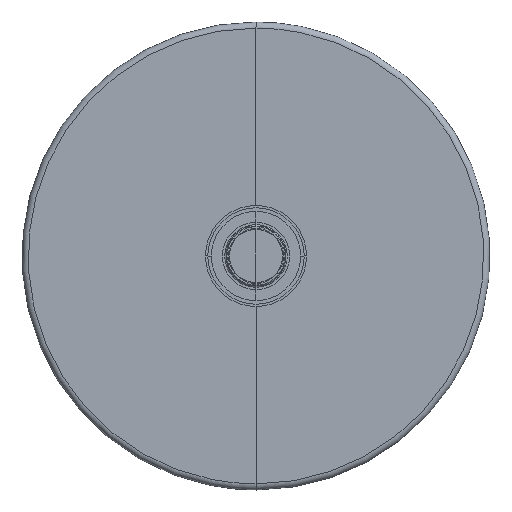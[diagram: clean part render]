
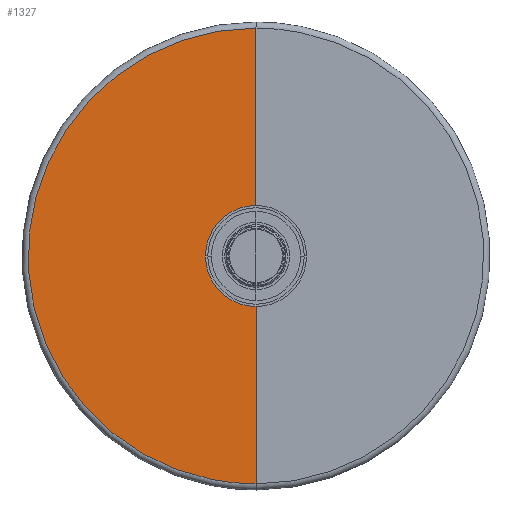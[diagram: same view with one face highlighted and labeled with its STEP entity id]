
A CAD part, top view. The second image highlights one B-rep face of the part: STEP entity #1327.
In plain terms, the highlighted planar face has unit normal (0, 0, 1).
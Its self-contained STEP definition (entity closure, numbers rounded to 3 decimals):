
#61=PLANE('',#1501);
#99=B_SPLINE_CURVE_WITH_KNOTS('',3,(#3597,#3598,#3599,#3600,#3601,#3602,
#3603,#3604,#3605,#3606,#3607,#3608,#3609,#3610),.UNSPECIFIED.,.F.,.F.,
(4,1,1,1,1,1,1,1,1,1,1,4),(0.,0.091,0.182,0.273,
0.364,0.455,0.545,0.636,
0.727,0.818,0.909,1.),.UNSPECIFIED.);
#195=FACE_OUTER_BOUND('',#283,.T.);
#283=EDGE_LOOP('',(#1200,#1201,#1202,#1203));
#366=CIRCLE('',#1494,32.393);
#438=LINE('',#3612,#510);
#439=LINE('',#3613,#511);
#510=VECTOR('',#1911,304.8);
#511=VECTOR('',#1912,304.8);
#614=VERTEX_POINT('',#3190);
#615=VERTEX_POINT('',#3191);
#620=VERTEX_POINT('',#3236);
#621=VERTEX_POINT('',#3409);
#804=EDGE_CURVE('',#615,#614,#366,.T.);
#813=EDGE_CURVE('',#620,#621,#99,.T.);
#814=EDGE_CURVE('',#614,#620,#438,.T.);
#815=EDGE_CURVE('',#621,#615,#439,.T.);
#1200=ORIENTED_EDGE('',*,*,#813,.T.);
#1201=ORIENTED_EDGE('',*,*,#815,.T.);
#1202=ORIENTED_EDGE('',*,*,#804,.T.);
#1203=ORIENTED_EDGE('',*,*,#814,.T.);
#1327=ADVANCED_FACE('',(#195),#61,.F.);
#1494=AXIS2_PLACEMENT_3D('',#3199,#1895,#1896);
#1501=AXIS2_PLACEMENT_3D('',#3614,#1913,#1914);
#1895=DIRECTION('center_axis',(0.,0.,-1.));
#1896=DIRECTION('ref_axis',(0.,-1.,0.));
#1911=DIRECTION('',(0.,1.,0.));
#1912=DIRECTION('',(0.,1.,0.));
#1913=DIRECTION('center_axis',(0.,0.,-1.));
#1914=DIRECTION('ref_axis',(0.,-1.,0.));
#3190=CARTESIAN_POINT('',(0.,32.393,149.589));
#3191=CARTESIAN_POINT('',(0.,-32.393,149.589));
#3199=CARTESIAN_POINT('Origin',(0.,0.,
149.589));
#3236=CARTESIAN_POINT('',(0.,146.041,149.589));
#3409=CARTESIAN_POINT('',(0.,-146.041,149.589));
#3597=CARTESIAN_POINT('Ctrl Pts',(0.,146.041,
149.589));
#3598=CARTESIAN_POINT('Ctrl Pts',(-13.919,146.096,149.589));
#3599=CARTESIAN_POINT('Ctrl Pts',(-41.7,142.017,149.589));
#3600=CARTESIAN_POINT('Ctrl Pts',(-80.038,124.546,149.589));
#3601=CARTESIAN_POINT('Ctrl Pts',(-111.88,96.943,149.589));
#3602=CARTESIAN_POINT('Ctrl Pts',(-134.662,61.498,149.589));
#3603=CARTESIAN_POINT('Ctrl Pts',(-146.533,21.068,149.589));
#3604=CARTESIAN_POINT('Ctrl Pts',(-146.533,-21.068,149.589));
#3605=CARTESIAN_POINT('Ctrl Pts',(-134.662,-61.498,149.589));
#3606=CARTESIAN_POINT('Ctrl Pts',(-111.88,-96.943,149.589));
#3607=CARTESIAN_POINT('Ctrl Pts',(-80.038,-124.546,149.589));
#3608=CARTESIAN_POINT('Ctrl Pts',(-41.7,-142.017,149.589));
#3609=CARTESIAN_POINT('Ctrl Pts',(-13.919,-146.096,149.589));
#3610=CARTESIAN_POINT('Ctrl Pts',(0.,-146.041,
149.589));
#3612=CARTESIAN_POINT('',(0.,32.393,149.589));
#3613=CARTESIAN_POINT('',(0.,-146.041,149.589));
#3614=CARTESIAN_POINT('Origin',(0.,0.,149.589));
